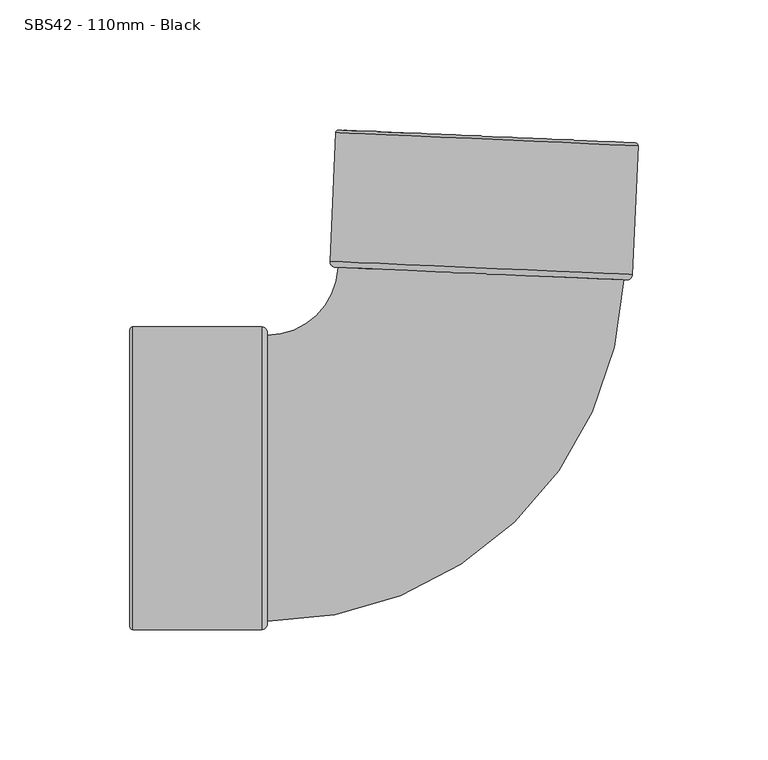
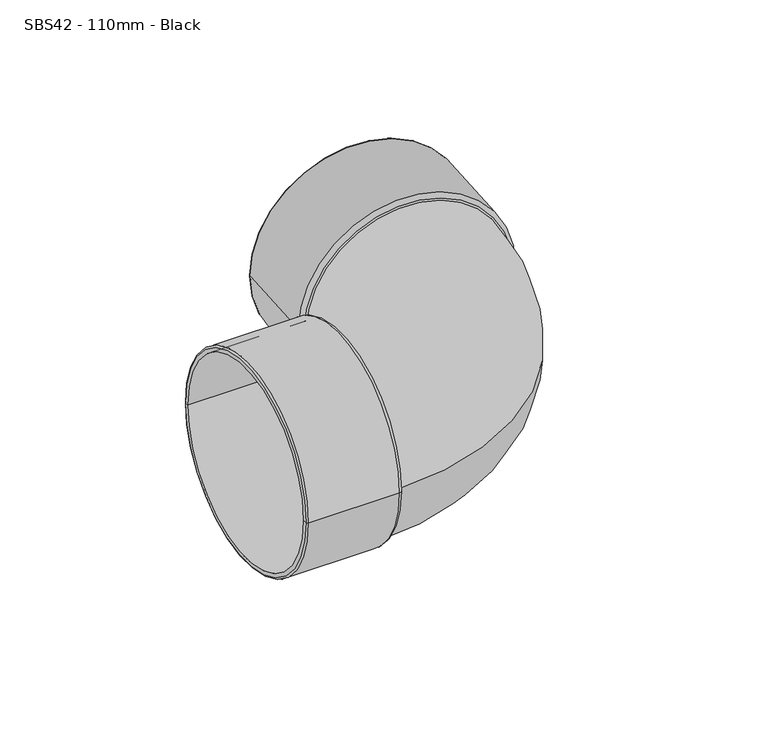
"""IFC4 building model written with IfcOpenShell, lengths in millimetres: pipe fitting geometry, MarleyPlumbingAndDrainage_PipeFitting_DoubleSolventSocket87-5 : SBS42 - 110mm - Black."""

from ifc_helpers import new_model, si_unit, point, frame, origin, place, context, project, spatial, polyline, circle_curve, ellipse_curve, trimmed, source, transform, mapped, element, save
from ifc_brep_helpers import plane_surface, cylinder_surface, revolved_surface, advanced_brep


def sbs42_110mm_black_3087da24(model_context):
    return source(origin(), model_context, "Body", "AdvancedBrep", [
        advanced_brep(
        [(-64.2331818, 133.8676607, 0.0), (46.0617419, 129.0520803, 0.0), (48.0224753, 128.9664729, 0.0), (-66.1939151, 133.9532682, 0.0), (-66.4403228, 83.3158207, 0.0), (43.8546009, 78.5002403, 0.0), (-11.2928609, 80.9080305, 0.0), (-67.335524, 81.1528101, 0.0), (44.5578768, 76.2674387, 0.0), (-11.3888236, 78.7101244, 0.0), (-67.2755771, 132.9621076, 0.0), (49.0136359, 127.8848109, 0.0), (46.8517456, 78.3693822, 0.0), (-69.4374674, 83.4466789, 0.0)],
        [
            (0, 1, circle_curve(frame((-9.0857199, 131.4598705, 0.0), z_axis=(-0.04361938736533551, -0.9990482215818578, 0.0), x_axis=(0.9990482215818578, -0.04361938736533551, 0.0)), 55.2)),
            (1, 2),
            (2, 3, circle_curve(frame((-9.0857199, 131.4598705, 0.0), z_axis=(0.04361938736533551, 0.9990482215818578, 0.0), x_axis=(0.9990482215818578, -0.04361938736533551, 0.0)), 57.1626013)),
            (3, 0),
            (1, 0, circle_curve(frame((-9.0857199, 131.4598705, 0.0), z_axis=(-0.04361938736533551, -0.9990482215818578, 0.0), x_axis=(0.9990482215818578, -0.04361938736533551, 0.0)), 55.2)),
            (3, 2, circle_curve(frame((-9.0857199, 131.4598705, 0.0), z_axis=(0.04361938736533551, 0.9990482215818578, 0.0), x_axis=(0.9990482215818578, -0.04361938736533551, 0.0)), 57.1626013)),
            (4, 5, circle_curve(frame((-11.2928609, 80.9080305, 0.0), z_axis=(-0.04361938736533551, -0.9990482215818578, 0.0), x_axis=(0.9990482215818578, -0.04361938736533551, 0.0)), 55.2)),
            (5, 1),
            (0, 4),
            (5, 4, circle_curve(frame((-11.2928609, 80.9080305, 0.0), z_axis=(-0.04361938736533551, -0.9990482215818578, 0.0), x_axis=(0.9990482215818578, -0.04361938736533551, 0.0)), 55.2)),
            (6, 5),
            (4, 6),
            (7, 8, circle_curve(frame((-11.3888236, 78.7101244, 0.0), z_axis=(-0.04361938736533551, -0.9990482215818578, 0.0), x_axis=(0.9990482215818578, -0.04361938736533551, 0.0)), 56.0)),
            (8, 9),
            (9, 7),
            (8, 7, circle_curve(frame((-11.3888236, 78.7101244, 0.0), z_axis=(-0.04361938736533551, -0.9990482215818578, 0.0), x_axis=(0.9990482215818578, -0.04361938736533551, 0.0)), 56.0)),
            (10, 11, circle_curve(frame((-9.1309706, 130.4234592, 0.0), z_axis=(-0.04361938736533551, -0.9990482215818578, 0.0), x_axis=(0.9990482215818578, -0.04361938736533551, 0.0)), 58.2)),
            (11, 12),
            (12, 13, circle_curve(frame((-11.2928609, 80.9080305, 0.0), z_axis=(0.04361938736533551, 0.9990482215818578, 0.0), x_axis=(0.9990482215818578, -0.04361938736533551, 0.0)), 58.2)),
            (13, 10),
            (11, 10, circle_curve(frame((-9.1309706, 130.4234592, 0.0), z_axis=(-0.04361938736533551, -0.9990482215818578, 0.0), x_axis=(0.9990482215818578, -0.04361938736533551, 0.0)), 58.2)),
            (13, 12, circle_curve(frame((-11.2928609, 80.9080305, 0.0), z_axis=(0.04361938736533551, 0.9990482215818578, 0.0), x_axis=(0.9990482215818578, -0.04361938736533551, 0.0)), 58.2)),
            (2, 11, circle_curve(frame((47.9772246, 127.9300616, 0.0), z_axis=(0.0, 0.0, -1.0), x_axis=(0.9990482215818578, -0.04361938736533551, 0.0)), 1.0373987)),
            (10, 3, circle_curve(frame((-66.2391658, 132.9168569, 0.0), z_axis=(0.0, 0.0, -1.0), x_axis=(-0.9990482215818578, 0.04361938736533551, 0.0)), 1.0373987)),
            (12, 8, circle_curve(frame((44.6538395, 78.4653448, 0.0), z_axis=(0.0, 0.0, -1.0), x_axis=(0.9990482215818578, -0.04361938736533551, 0.0)), 2.2)),
            (7, 13, circle_curve(frame((-67.2395613, 83.3507162, 0.0), z_axis=(0.0, 0.0, -1.0), x_axis=(-0.9990482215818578, 0.04361938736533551, 0.0)), 2.2)),
        ],
        [
            plane_surface(frame((-9.0857199, 131.4598705, 0.0), z_axis=(0.04361938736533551, 0.9990482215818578, 0.0), x_axis=(0.9990482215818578, -0.04361938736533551, 0.0))),
            revolved_surface(polyline([(46.06174187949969, 129.05208033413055, 0.0), (43.85460087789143, 78.50024030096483, 0.0)]), (101.7517196, 2670.0546, 0.0), (0.04361938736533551, 0.9990482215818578, 0.0)),
            plane_surface(frame((-11.2928609, 80.9080305, 0.0), z_axis=(0.04361938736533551, 0.9990482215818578, 0.0), x_axis=(0.9990482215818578, -0.04361938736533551, 0.0))),
            plane_surface(frame((-11.3888236, 78.7101244, 0.0), z_axis=(-0.04361938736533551, -0.9990482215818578, 0.0), x_axis=(0.9990482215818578, -0.04361938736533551, 0.0))),
            cylinder_surface(frame((101.7517196, 2670.0546, 0.0), z_axis=(0.04361938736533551, 0.9990482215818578, 0.0), x_axis=(0.9990482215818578, -0.04361938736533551, 0.0)), 58.2),
            revolved_surface(trimmed(ellipse_curve(frame((47.9772246, 127.9300616, 0.0), z_axis=(0.0, 0.0, 1.0), x_axis=(0.9990482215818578, -0.04361938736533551, 0.0)), 1.0373987, 1.0373987), [point((49.0136359, 127.8848109, 0.0))], [point((48.0224753, 128.9664729, 0.0))], True, "CARTESIAN"), (101.7517196, 2670.0546, 0.0), (0.04361938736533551, 0.9990482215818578, 0.0)),
            revolved_surface(trimmed(ellipse_curve(frame((44.6538395, 78.4653448, 0.0), z_axis=(0.0, 0.0, 1.0), x_axis=(0.9990482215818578, -0.04361938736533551, 0.0)), 2.2, 2.2), [point((44.5578768, 76.2674387, 0.0))], [point((46.8517456, 78.3693822, 0.0))], True, "CARTESIAN"), (101.7517196, 2670.0546, 0.0), (0.04361938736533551, 0.9990482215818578, 0.0)),
        ],
        [
            (0, [[1, 2, 3, 4]]),
            (0, [[5, -4, 6, -2]]),
            (1, [[7, 8, -1, 9]]),
            (1, [[10, -9, -5, -8]]),
            (2, [[11, -7, 12]]),
            (2, [[-12, -10, -11]]),
            (3, [[13, 14, 15]]),
            (3, [[16, -15, -14]]),
            (4, [[17, 18, 19, 20]]),
            (4, [[21, -20, 22, -18]]),
            (5, [[-3, 23, -17, 24]]),
            (5, [[-6, -24, -21, -23]]),
            (6, [[-19, 25, -13, 26]]),
            (6, [[-22, -26, -16, -25]]),
        ],
    ),
        advanced_brep(
        [(-146.4104922, 55.2, 0.0), (-146.4104922, -55.2, 0.0), (-146.4104922, -57.1626013, 0.0), (-146.4104922, 57.1626013, 0.0), (-95.8104922, 55.2, 0.0), (-95.8104922, -55.2, 0.0), (-95.8104922, 0.0, 0.0), (-93.6104922, 56.0, 0.0), (-93.6104922, -56.0, 0.0), (-93.6104922, 0.0, 0.0), (-145.3730936, 58.2, 0.0), (-145.3730936, -58.2, 0.0), (-95.8104922, -58.2, 0.0), (-95.8104922, 58.2, 0.0)],
        [
            (0, 1, circle_curve(frame((-146.4104922, 0.0, 0.0), z_axis=(1.0, 0.0, 0.0), x_axis=(0.0, -1.0, 0.0)), 55.2)),
            (1, 2),
            (2, 3, circle_curve(frame((-146.4104922, 0.0, 0.0), z_axis=(-1.0, 0.0, 0.0), x_axis=(0.0, -1.0, 0.0)), 57.1626013)),
            (3, 0),
            (1, 0, circle_curve(frame((-146.4104922, 0.0, 0.0), z_axis=(1.0, 0.0, 0.0), x_axis=(0.0, -1.0, 0.0)), 55.2)),
            (3, 2, circle_curve(frame((-146.4104922, 0.0, 0.0), z_axis=(-1.0, 0.0, 0.0), x_axis=(0.0, -1.0, 0.0)), 57.1626013)),
            (4, 5, circle_curve(frame((-95.8104922, 0.0, 0.0), z_axis=(1.0, 0.0, 0.0), x_axis=(0.0, -1.0, 0.0)), 55.2)),
            (5, 1),
            (0, 4),
            (5, 4, circle_curve(frame((-95.8104922, 0.0, 0.0), z_axis=(1.0, 0.0, 0.0), x_axis=(0.0, -1.0, 0.0)), 55.2)),
            (6, 5),
            (4, 6),
            (7, 8, circle_curve(frame((-93.6104922, 0.0, 0.0), z_axis=(1.0, 0.0, 0.0), x_axis=(0.0, -1.0, 0.0)), 56.0)),
            (8, 9),
            (9, 7),
            (8, 7, circle_curve(frame((-93.6104922, 0.0, 0.0), z_axis=(1.0, 0.0, 0.0), x_axis=(0.0, -1.0, 0.0)), 56.0)),
            (10, 11, circle_curve(frame((-145.3730936, 0.0, 0.0), z_axis=(1.0, 0.0, 0.0), x_axis=(0.0, -1.0, 0.0)), 58.2)),
            (11, 12),
            (12, 13, circle_curve(frame((-95.8104922, 0.0, 0.0), z_axis=(-1.0, 0.0, 0.0), x_axis=(0.0, -1.0, 0.0)), 58.2)),
            (13, 10),
            (11, 10, circle_curve(frame((-145.3730936, 0.0, 0.0), z_axis=(1.0, 0.0, 0.0), x_axis=(0.0, -1.0, 0.0)), 58.2)),
            (13, 12, circle_curve(frame((-95.8104922, 0.0, 0.0), z_axis=(-1.0, 0.0, 0.0), x_axis=(0.0, -1.0, 0.0)), 58.2)),
            (2, 11, circle_curve(frame((-145.3730936, -57.1626013, 0.0), z_axis=(0.0, 0.0, 1.0), x_axis=(0.0, -1.0, 0.0)), 1.0373987)),
            (10, 3, circle_curve(frame((-145.3730936, 57.1626013, 0.0), z_axis=(0.0, 0.0, 1.0), x_axis=(0.0, 1.0, 0.0)), 1.0373987)),
            (12, 8, circle_curve(frame((-95.8104922, -56.0, 0.0), z_axis=(0.0, 0.0, 1.0), x_axis=(0.0, -1.0, 0.0)), 2.2)),
            (7, 13, circle_curve(frame((-95.8104922, 56.0, 0.0), z_axis=(0.0, 0.0, 1.0), x_axis=(0.0, 1.0, 0.0)), 2.2)),
        ],
        [
            plane_surface(frame((-146.4104922, 0.0, 0.0), z_axis=(-1.0, 0.0, 0.0), x_axis=(0.0, -1.0, 0.0))),
            revolved_surface(polyline([(-146.41049220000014, -55.2, 0.0), (-95.81049220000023, -55.2, 0.0)]), (-2687.4237032, 0.0, 0.0), (-1.0, 0.0, 0.0)),
            plane_surface(frame((-95.8104922, 0.0, 0.0), z_axis=(-1.0, 0.0, 0.0), x_axis=(0.0, -1.0, 0.0))),
            plane_surface(frame((-93.6104922, 0.0, 0.0), z_axis=(1.0, 0.0, 0.0), x_axis=(0.0, -1.0, 0.0))),
            cylinder_surface(frame((-2687.4237032, 0.0, 0.0), z_axis=(-1.0, 0.0, 0.0), x_axis=(0.0, -1.0, 0.0)), 58.2),
            revolved_surface(trimmed(ellipse_curve(frame((-145.3730936, -57.1626013, 0.0), z_axis=(0.0, 0.0, -1.0), x_axis=(0.0, -1.0, 0.0)), 1.0373987, 1.0373987), [point((-145.3730936, -58.2, 0.0))], [point((-146.4104922, -57.1626013, 0.0))], True, "CARTESIAN"), (-2687.4237032, 0.0, 0.0), (-1.0, 0.0, 0.0)),
            revolved_surface(trimmed(ellipse_curve(frame((-95.8104922, -56.0, 0.0), z_axis=(0.0, 0.0, -1.0), x_axis=(0.0, -1.0, 0.0)), 2.2, 2.2), [point((-93.6104922, -56.0, 0.0))], [point((-95.8104922, -58.2, 0.0))], True, "CARTESIAN"), (-2687.4237032, 0.0, 0.0), (-1.0, 0.0, 0.0)),
        ],
        [
            (0, [[1, 2, 3, 4]]),
            (0, [[5, -4, 6, -2]]),
            (1, [[7, 8, -1, 9]]),
            (1, [[10, -9, -5, -8]]),
            (2, [[11, -7, 12]]),
            (2, [[-12, -10, -11]]),
            (3, [[13, 14, 15]]),
            (3, [[16, -15, -14]]),
            (4, [[17, 18, 19, 20]]),
            (4, [[21, -20, 22, -18]]),
            (5, [[-3, 23, -17, 24]]),
            (5, [[-6, -24, -21, -23]]),
            (6, [[-19, 25, -13, 26]]),
            (6, [[-22, -26, -16, -25]]),
        ],
    ),
        advanced_brep(
        [(-93.6104922, -55.0, 0.0), (-93.6104922, 55.0, 0.0), (43.5588286, 76.3110581, 0.0), (-66.3364758, 81.1091907, 0.0)],
        [
            (0, 1, circle_curve(frame((-93.6104922, 0.0, 0.0), z_axis=(-1.0, 0.0, 0.0), x_axis=(0.0, 1.0, 0.0)), 55.0)),
            (1, 0, circle_curve(frame((-93.6104922, 0.0, 0.0), z_axis=(-1.0, 0.0, 0.0), x_axis=(0.0, 1.0, 0.0)), 55.0)),
            (2, 3, circle_curve(frame((-11.3888236, 78.7101244, 0.0), z_axis=(0.0436193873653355, 0.9990482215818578, 0.0), x_axis=(-0.9990482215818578, 0.0436193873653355, 0.0)), 55.0)),
            (3, 2, circle_curve(frame((-11.3888236, 78.7101244, 0.0), z_axis=(0.0436193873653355, 0.9990482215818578, 0.0), x_axis=(-0.9990482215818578, 0.0436193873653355, 0.0)), 55.0)),
            (3, 1, circle_curve(frame((-93.6104922, 82.3, 0.0), z_axis=(0.0, 0.0, -1.0), x_axis=(0.0, -1.0, 0.0)), 27.3)),
            (0, 2, circle_curve(frame((-93.6104922, 82.3, 0.0), z_axis=(0.0, 0.0, 1.0), x_axis=(0.0, -1.0, 0.0)), 137.3)),
        ],
        [
            plane_surface(frame((-93.6104922, 0.0, 0.0), z_axis=(-1.0, 0.0, 0.0), x_axis=(0.0, 0.0, 1.0))),
            plane_surface(frame((-11.3888236, 78.7101244, 0.0), z_axis=(0.04361938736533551, 0.9990482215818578, 0.0), x_axis=(0.0, 0.0, 1.0))),
            revolved_surface(trimmed(ellipse_curve(frame((-93.6104922, 0.0, 0.0), z_axis=(-1.0, 0.0, 0.0), x_axis=(0.0, 1.0, 0.0)), 55.0, 55.0), [point((-93.6104922, -55.0, 0.0))], [point((-93.6104922, 55.0, 0.0))], True, "CARTESIAN"), (-93.6104922, 82.3, 0.0), (0.0, 0.0, 1.0)),
            revolved_surface(trimmed(ellipse_curve(frame((-93.6104922, 0.0, 0.0), z_axis=(-1.0, 0.0, 0.0), x_axis=(0.0, 1.0, 0.0)), 55.0, 55.0), [point((-93.6104922, 55.0, 0.0))], [point((-93.6104922, -55.0, 0.0))], True, "CARTESIAN"), (-93.6104922, 82.3, 0.0), (0.0, 0.0, 1.0)),
        ],
        [
            (0, [[1, 2]]),
            (1, [[3, 4]]),
            (2, [[5, -1, 6, -4]]),
            (3, [[-6, -2, -5, -3]]),
        ],
    ),
    ])


if __name__ == "__main__":
    model = new_model("IFC4")
    model_context = context("Model", 3, world=origin())
    ifc_project = project(units=[si_unit("LENGTHUNIT", "METRE", prefix="MILLI")], contexts=[model_context])
    site = spatial("IfcSite", under=ifc_project)
    building = spatial("IfcBuilding", under=site)
    placement = place(None, origin())
    sbs42_110mm_black_shape = sbs42_110mm_black_3087da24(model_context)
    element("IfcPipeFitting", 1, ObjectType="MarleyPlumbingAndDrainage_PipeFitting_DoubleSolventSocket87-5 : SBS42 - 110mm - Black", at=placement, inside=building, context=model_context, shape_type="MappedRepresentation", body=[
        mapped(sbs42_110mm_black_shape, transform((0.0, 0.0, 0.0), x_axis=(1.0, 0.0, 0.0), y_axis=(0.0, 1.0, 0.0), z_axis=(0.0, 0.0, 1.0))),
    ])
    save(model, "model.ifc")
